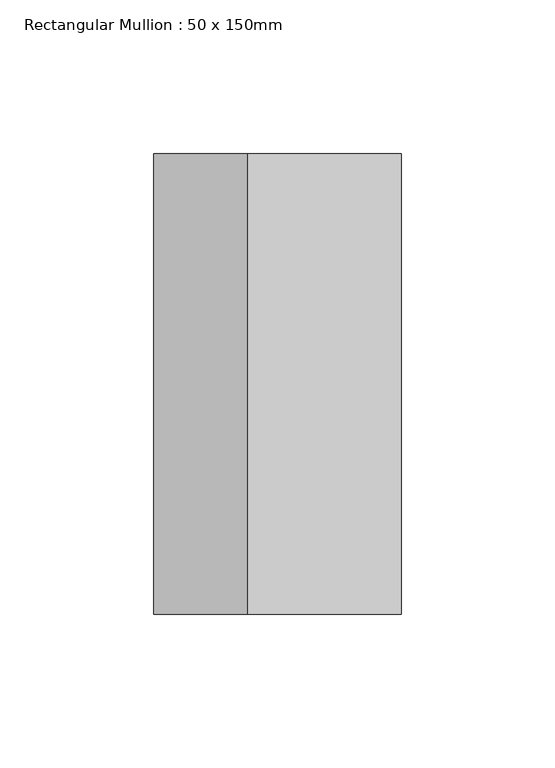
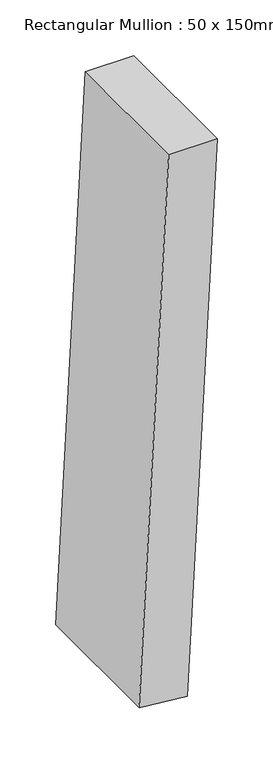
"""IFC4 building model written with IfcOpenShell, lengths in millimetres: member geometry, Rectangular Mullion : 50 x 150mm."""

from ifc_helpers import new_model, si_unit, point, frame, frame_2d, origin, place, context, project, spatial, polyline, circle_curve, trimmed, segment, composite_curve, outline, extrude, source, transform, mapped, element, save


def rectangular_mullion_50_x_150mm_0e265352(model_context):
    return source(origin(), model_context, "Body", "SweptSolid", [
        extrude(outline(composite_curve([segment(trimmed(circle_curve(frame_2d((0.0, -5826.7943099)), 5826.7943099), [point((-600.0, -30.9740979))], [point((0.0, 0.0))], False, "CARTESIAN"), True, "CONTINUOUS"), segment(polyline([(0.0, 0.0), (0.0, -50.0)]), True, "CONTINUOUS"), segment(trimmed(circle_curve(frame_2d((0.0, -5826.7943099)), 5776.7943099), [point((0.0, -50.0))], [point((-594.8513714, -80.7083077))], True, "CARTESIAN"), True, "CONTINUOUS"), segment(polyline([(-594.8513714, -80.7083077), (-600.0, -30.9740979)]), True, "CONTINUOUS")], self_intersect=False)), frame((0.0, -75.0, 0.0), z_axis=(0.0, 1.0, 0.0), x_axis=(0.0, 0.0, 1.0)), (0.0, 0.0, 1.0), 150.0),
    ])


if __name__ == "__main__":
    model = new_model("IFC4")
    model_context = context("Model", 3, world=origin())
    ifc_project = project(units=[si_unit("LENGTHUNIT", "METRE", prefix="MILLI")], contexts=[model_context])
    site = spatial("IfcSite", under=ifc_project)
    building = spatial("IfcBuilding", under=site)
    placement = place(None, origin())
    rectangular_mullion_50_x_150mm_shape = rectangular_mullion_50_x_150mm_0e265352(model_context)
    element("IfcMember", 1, ObjectType="Rectangular Mullion : 50 x 150mm", at=placement, inside=building, context=model_context, shape_type="MappedRepresentation", body=[
        mapped(rectangular_mullion_50_x_150mm_shape, transform((0.0, 0.0, 0.0), x_axis=(1.0, 0.0, 0.0), y_axis=(0.0, 1.0, 0.0), z_axis=(0.0, 0.0, 1.0))),
    ])
    save(model, "model.ifc")
